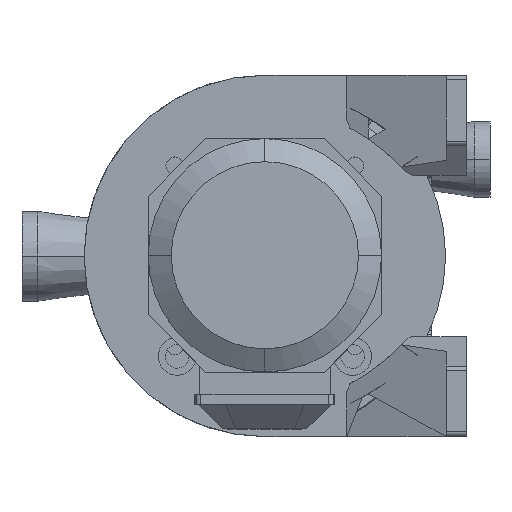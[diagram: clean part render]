
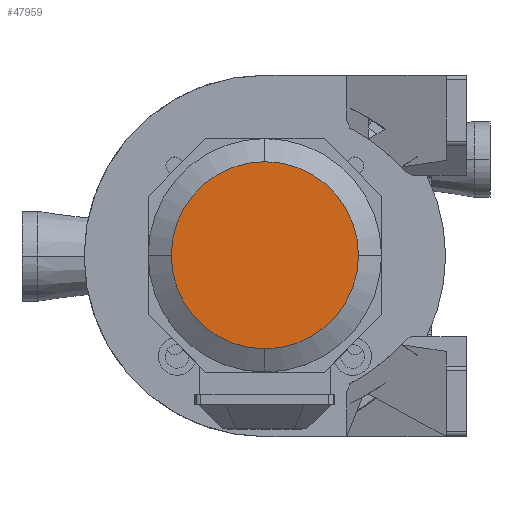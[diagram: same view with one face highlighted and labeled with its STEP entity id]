
A CAD part, top view. The second image highlights one B-rep face of the part: STEP entity #47959.
In plain terms, the highlighted planar face has unit normal (0, 0, 1).
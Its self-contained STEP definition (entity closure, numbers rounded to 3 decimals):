
#43182=CARTESIAN_POINT('',(0.0,-79.,429.0));
#43183=VERTEX_POINT('',#43182);
#43190=CARTESIAN_POINT('',(0.,79.,429.0));
#43191=VERTEX_POINT('',#43190);
#43192=CARTESIAN_POINT('',(0.0,0.,429.0));
#43193=DIRECTION('',(0.0,0.0,1.0));
#43194=DIRECTION('',(0.0,-1.0,0.0));
#43195=AXIS2_PLACEMENT_3D('',#43192,#43193,#43194);
#43196=CIRCLE('',#43195,79.0);
#43197=EDGE_CURVE('',#43191,#43183,#43196,.T.);
#47944=CARTESIAN_POINT('',(-86.9,86.9,429.0));
#47945=DIRECTION('',(0.0,0.0,1.0));
#47946=DIRECTION('',(0.0,-1.0,0.0));
#47947=AXIS2_PLACEMENT_3D('',#47944,#47945,#47946);
#47948=PLANE('',#47947);
#47949=CARTESIAN_POINT('',(0.0,0.,429.0));
#47950=DIRECTION('',(0.0,0.0,1.0));
#47951=DIRECTION('',(0.0,-1.0,0.0));
#47952=AXIS2_PLACEMENT_3D('',#47949,#47950,#47951);
#47953=CIRCLE('',#47952,79.0);
#47954=EDGE_CURVE('',#43183,#43191,#47953,.T.);
#47955=ORIENTED_EDGE('',*,*,#47954,.T.);
#47956=ORIENTED_EDGE('',*,*,#43197,.T.);
#47957=EDGE_LOOP('',(#47955,#47956));
#47958=FACE_OUTER_BOUND('',#47957,.T.);
#47959=ADVANCED_FACE('',(#47958),#47948,.T.);
